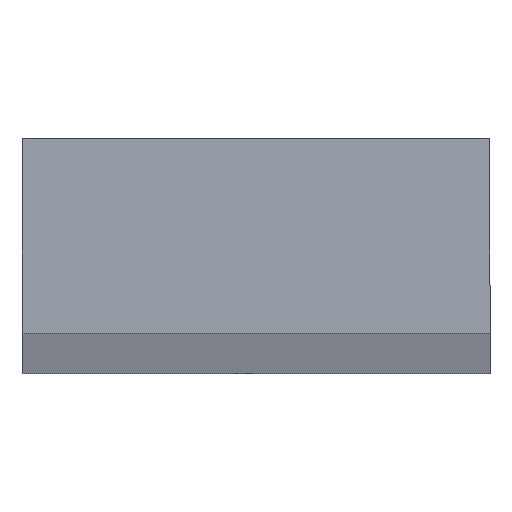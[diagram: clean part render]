
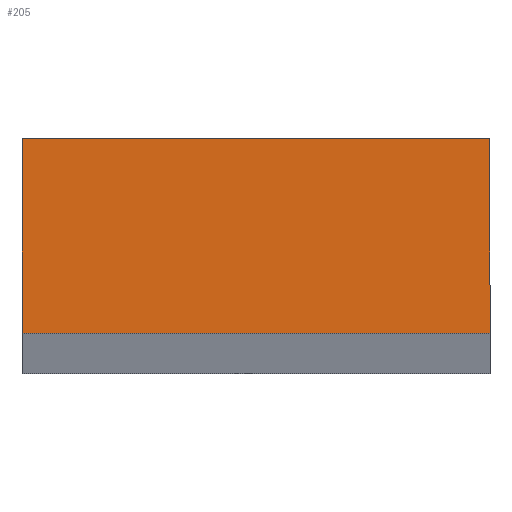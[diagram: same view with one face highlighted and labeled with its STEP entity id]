
A CAD part, top view. The second image highlights one B-rep face of the part: STEP entity #205.
In plain terms, the highlighted planar face has unit normal (0, 0, 1).
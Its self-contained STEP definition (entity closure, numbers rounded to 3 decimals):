
#1 = PLANE ( 'NONE',  #45 ) ;
#13 = EDGE_LOOP ( 'NONE', ( #86, #30, #213, #197 ) ) ;
#16 = VECTOR ( 'NONE', #70, 1000. ) ;
#17 = CARTESIAN_POINT ( 'NONE',  ( -1.077, 7.128, 590. ) ) ;
#18 = LINE ( 'NONE', #92, #39 ) ;
#20 = CARTESIAN_POINT ( 'NONE',  ( -13.077, 7.128, 590. ) ) ;
#30 = ORIENTED_EDGE ( 'NONE', *, *, #75, .T. ) ;
#33 = LINE ( 'NONE', #109, #82 ) ;
#34 = DIRECTION ( 'NONE',  ( 0., 0., 1. ) ) ;
#39 = VECTOR ( 'NONE', #49, 1000. ) ;
#42 = VERTEX_POINT ( 'NONE', #67 ) ;
#44 = VERTEX_POINT ( 'NONE', #160 ) ;
#45 = AXIS2_PLACEMENT_3D ( 'NONE', #184, #34, #114 ) ;
#49 = DIRECTION ( 'NONE',  ( 1., 0., 0. ) ) ;
#52 = FACE_OUTER_BOUND ( 'NONE', #13, .T. ) ;
#67 = CARTESIAN_POINT ( 'NONE',  ( -13.077, 2.128, 590. ) ) ;
#68 = EDGE_CURVE ( 'NONE', #169, #196, #33, .T. ) ;
#70 = DIRECTION ( 'NONE',  ( 0., -1., 0. ) ) ;
#72 = EDGE_CURVE ( 'NONE', #196, #42, #143, .T. ) ;
#75 = EDGE_CURVE ( 'NONE', #42, #44, #18, .T. ) ;
#82 = VECTOR ( 'NONE', #218, 1000. ) ;
#86 = ORIENTED_EDGE ( 'NONE', *, *, #72, .T. ) ;
#92 = CARTESIAN_POINT ( 'NONE',  ( -13.077, 2.128, 590. ) ) ;
#95 = LINE ( 'NONE', #17, #154 ) ;
#109 = CARTESIAN_POINT ( 'NONE',  ( -13.077, 7.128, 590. ) ) ;
#110 = DIRECTION ( 'NONE',  ( 0., 1., 0. ) ) ;
#114 = DIRECTION ( 'NONE',  ( 1., 0., 0. ) ) ;
#143 = LINE ( 'NONE', #183, #16 ) ;
#154 = VECTOR ( 'NONE', #110, 1000. ) ;
#160 = CARTESIAN_POINT ( 'NONE',  ( -1.077, 2.128, 590. ) ) ;
#165 = CARTESIAN_POINT ( 'NONE',  ( -1.077, 7.128, 590. ) ) ;
#169 = VERTEX_POINT ( 'NONE', #165 ) ;
#183 = CARTESIAN_POINT ( 'NONE',  ( -13.077, 7.128, 590. ) ) ;
#184 = CARTESIAN_POINT ( 'NONE',  ( 0., 0., 590. ) ) ;
#196 = VERTEX_POINT ( 'NONE', #20 ) ;
#197 = ORIENTED_EDGE ( 'NONE', *, *, #68, .T. ) ;
#199 = EDGE_CURVE ( 'NONE', #44, #169, #95, .T. ) ;
#205 = ADVANCED_FACE ( 'NONE', ( #52 ), #1, .T. ) ;
#213 = ORIENTED_EDGE ( 'NONE', *, *, #199, .T. ) ;
#218 = DIRECTION ( 'NONE',  ( -1., 0., 0. ) ) ;
